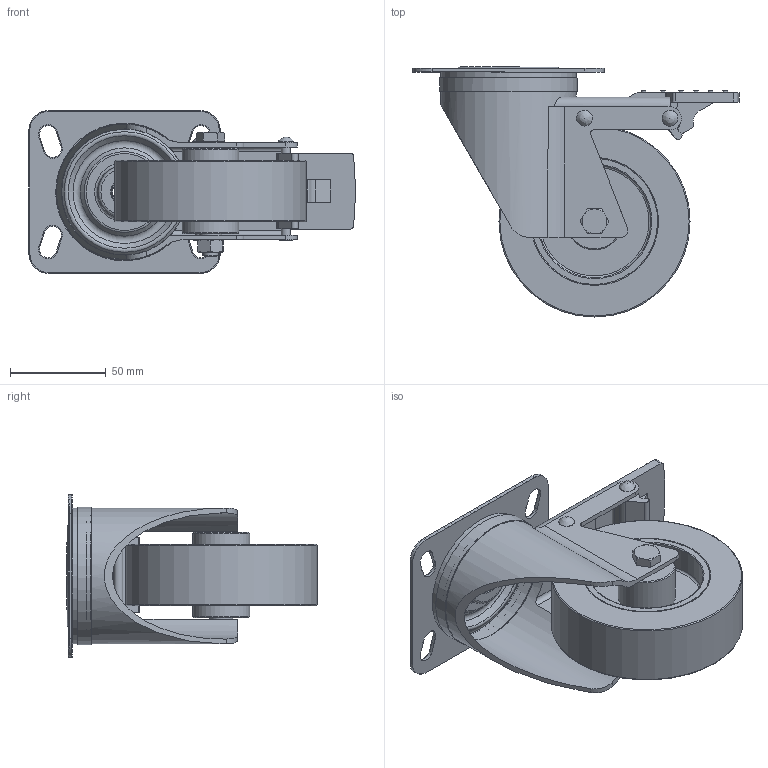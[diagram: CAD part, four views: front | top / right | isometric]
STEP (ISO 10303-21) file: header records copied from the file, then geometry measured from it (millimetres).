
FILE_DESCRIPTION(/* description */ ('Ruota nylgom Ø 100 con piastra e freno anteriore'),/* implementation_level */ '2;1');
FILE_NAME(/* name */ 'C:\Users\Stefan.Nesic\Desktop\01010STEP\R100PBFA.stp',/* time_stamp */ '2022-06-24T17:18:01+02:00',/* author */ ('stefan.nesic'),/* organization */ (''),/* preprocessor_version */ 'ST-DEVELOPER v18.1',/* originating_system */ 'Autodesk Inventor 2021',/* authorisation */ '');
FILE_SCHEMA (('AUTOMOTIVE_DESIGN { 1 0 10303 214 3 1 1 }'));
Length unit declared in the file: millimetre
Products named in the file (11): R100PBFA; 209922010919; 209922010920; 209922030367; 209922010922; 05208000200; 209922030369; 209922010928; 209922010956; 209922010957; 209922010960
Assembly tree (11 placements, depth 3):
  R100PBFA
    209922010919
    209922010920
    209922030367
      209922010922
      05208000200
    209922030369
    209922010928
    209922010956
    209922010957
    209922010960  x2
Bounding box: 170.59 x 130.8 x 85.01 mm (x, y, z)
Volume: 270773.6 mm3; surface area: 127161 mm2
Topology: 11 solids, 11 shells, 328 faces, 793 edges, 510 vertices
Faces by surface type: plane 146, cylinder 105, torus 40, cone 33, bspline 4
Full cylindrical faces by diameter (mm): 3.35 x2, 4.8 x2, 6.647 x1, 8 x2, 8.5 x2, 11.63 x1, 12 x2, 29.8 x2, 59 x2, 66 x3, 70 x1, 71 x3, 72 x1, 100 x1
Entity records: 9900 total; most frequent: CARTESIAN_POINT 1801, DIRECTION 1724, ORIENTED_EDGE 1532, EDGE_CURVE 766, AXIS2_PLACEMENT_3D 672, VERTEX_POINT 494, LINE 380, VECTOR 380
